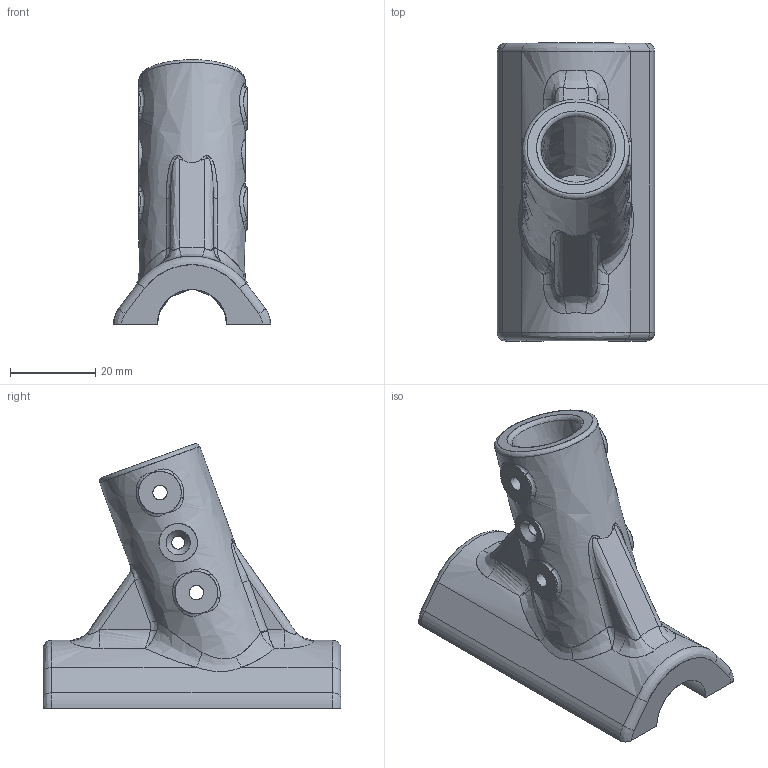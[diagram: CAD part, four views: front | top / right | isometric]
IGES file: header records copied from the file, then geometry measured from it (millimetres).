
Global section: file name: C:\Users\gehrichcr\Documents\1 Drive Backup\Practice\Inspire\V1.5\IGES\Boom Outer Joint 2 20Deg L.igs; native system: NX V8.5; preprocessor: SIEMENS PLM Software NX 8.5; date: 20150615.140741; units: millimetre
Bounding box: 37 x 70 x 62.18 mm (x, y, z)
Surface area: 15282.7 mm2 (no closed solid volume)
Topology: 0 solids, 0 shells, 166 faces, 1216 edges, 1154 vertices
Faces by surface type: bspline 166
